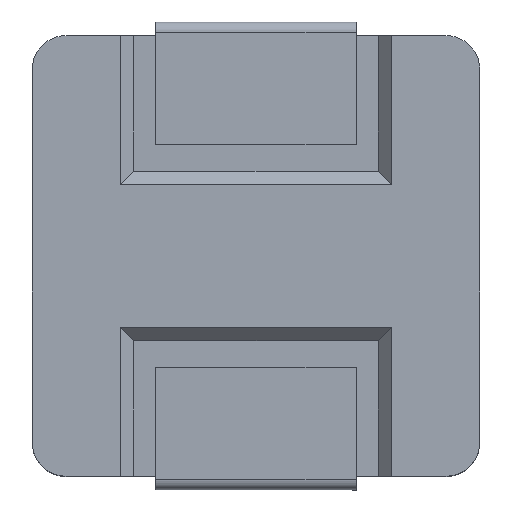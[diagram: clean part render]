
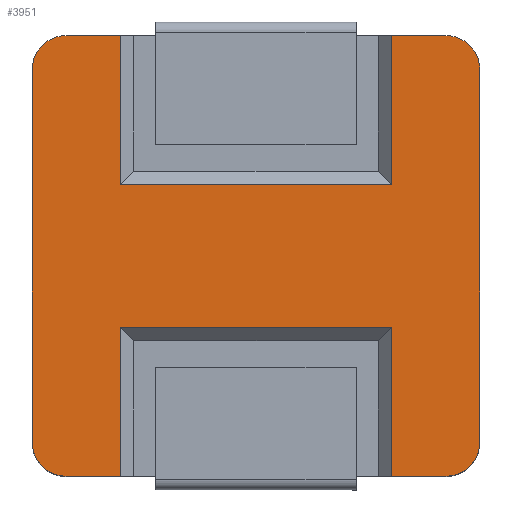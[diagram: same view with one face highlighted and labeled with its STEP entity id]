
A CAD part, top view. The second image highlights one B-rep face of the part: STEP entity #3951.
In plain terms, the highlighted planar face has unit normal (0, 0, 1).
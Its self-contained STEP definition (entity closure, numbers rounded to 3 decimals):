
#48=CIRCLE('',#4233,0.5);
#50=CIRCLE('',#4242,0.5);
#51=CIRCLE('',#4243,0.5);
#52=CIRCLE('',#4244,0.5);
#566=FACE_OUTER_BOUND('',#821,.T.);
#821=EDGE_LOOP('',(#3222,#3223,#3224,#3225,#3226,#3227,#3228,#3229,#3230,
#3231,#3232,#3233,#3234,#3235,#3236,#3237));
#1095=LINE('',#12099,#1427);
#1105=LINE('',#12121,#1437);
#1108=LINE('',#12127,#1440);
#1111=LINE('',#12135,#1443);
#1112=LINE('',#12139,#1444);
#1113=LINE('',#12141,#1445);
#1114=LINE('',#12143,#1446);
#1115=LINE('',#12145,#1447);
#1116=LINE('',#12147,#1448);
#1117=LINE('',#12149,#1449);
#1118=LINE('',#12151,#1450);
#1119=LINE('',#12153,#1451);
#1427=VECTOR('',#4837,1.);
#1437=VECTOR('',#4855,1.);
#1440=VECTOR('',#4860,1.);
#1443=VECTOR('',#4867,1.);
#1444=VECTOR('',#4870,1.);
#1445=VECTOR('',#4871,1.);
#1446=VECTOR('',#4872,1.);
#1447=VECTOR('',#4873,1.);
#1448=VECTOR('',#4874,1.);
#1449=VECTOR('',#4877,1.);
#1450=VECTOR('',#4878,1.);
#1451=VECTOR('',#4879,1.);
#1799=VERTEX_POINT('',#12089);
#1802=VERTEX_POINT('',#12094);
#1803=VERTEX_POINT('',#12098);
#1809=VERTEX_POINT('',#12115);
#1811=VERTEX_POINT('',#12119);
#1813=VERTEX_POINT('',#12125);
#1815=VERTEX_POINT('',#12133);
#1816=VERTEX_POINT('',#12134);
#1817=VERTEX_POINT('',#12136);
#1818=VERTEX_POINT('',#12138);
#1819=VERTEX_POINT('',#12140);
#1820=VERTEX_POINT('',#12142);
#1821=VERTEX_POINT('',#12144);
#1822=VERTEX_POINT('',#12146);
#1823=VERTEX_POINT('',#12150);
#1824=VERTEX_POINT('',#12152);
#2290=EDGE_CURVE('',#1799,#1802,#48,.T.);
#2291=EDGE_CURVE('',#1803,#1799,#1095,.T.);
#2302=EDGE_CURVE('',#1809,#1811,#1105,.T.);
#2305=EDGE_CURVE('',#1811,#1813,#1108,.T.);
#2308=EDGE_CURVE('',#1815,#1816,#1111,.T.);
#2309=EDGE_CURVE('',#1816,#1817,#50,.T.);
#2310=EDGE_CURVE('',#1817,#1818,#1112,.T.);
#2311=EDGE_CURVE('',#1818,#1819,#1113,.T.);
#2312=EDGE_CURVE('',#1819,#1820,#1114,.T.);
#2313=EDGE_CURVE('',#1820,#1821,#1115,.T.);
#2314=EDGE_CURVE('',#1821,#1822,#1116,.T.);
#2315=EDGE_CURVE('',#1822,#1803,#51,.T.);
#2316=EDGE_CURVE('',#1802,#1809,#1117,.T.);
#2317=EDGE_CURVE('',#1813,#1823,#1118,.T.);
#2318=EDGE_CURVE('',#1823,#1824,#1119,.T.);
#2319=EDGE_CURVE('',#1824,#1815,#52,.T.);
#3222=ORIENTED_EDGE('',*,*,#2308,.T.);
#3223=ORIENTED_EDGE('',*,*,#2309,.T.);
#3224=ORIENTED_EDGE('',*,*,#2310,.T.);
#3225=ORIENTED_EDGE('',*,*,#2311,.T.);
#3226=ORIENTED_EDGE('',*,*,#2312,.T.);
#3227=ORIENTED_EDGE('',*,*,#2313,.T.);
#3228=ORIENTED_EDGE('',*,*,#2314,.T.);
#3229=ORIENTED_EDGE('',*,*,#2315,.T.);
#3230=ORIENTED_EDGE('',*,*,#2291,.T.);
#3231=ORIENTED_EDGE('',*,*,#2290,.T.);
#3232=ORIENTED_EDGE('',*,*,#2316,.T.);
#3233=ORIENTED_EDGE('',*,*,#2302,.T.);
#3234=ORIENTED_EDGE('',*,*,#2305,.T.);
#3235=ORIENTED_EDGE('',*,*,#2317,.T.);
#3236=ORIENTED_EDGE('',*,*,#2318,.T.);
#3237=ORIENTED_EDGE('',*,*,#2319,.T.);
#3733=PLANE('',#4241);
#3951=ADVANCED_FACE('',(#566),#3733,.T.);
#4233=AXIS2_PLACEMENT_3D('',#12096,#4833,#4834);
#4241=AXIS2_PLACEMENT_3D('',#12132,#4865,#4866);
#4242=AXIS2_PLACEMENT_3D('',#12137,#4868,#4869);
#4243=AXIS2_PLACEMENT_3D('',#12148,#4875,#4876);
#4244=AXIS2_PLACEMENT_3D('',#12154,#4880,#4881);
#4833=DIRECTION('center_axis',(0.,0.,1.));
#4834=DIRECTION('ref_axis',(1.,0.,0.));
#4837=DIRECTION('',(0.,1.,0.));
#4855=DIRECTION('',(0.,-1.,0.));
#4860=DIRECTION('',(-1.,0.,0.));
#4865=DIRECTION('center_axis',(0.,0.,1.));
#4866=DIRECTION('ref_axis',(1.,0.,0.));
#4867=DIRECTION('',(0.,-1.,0.));
#4868=DIRECTION('center_axis',(0.,0.,1.));
#4869=DIRECTION('ref_axis',(1.,0.,0.));
#4870=DIRECTION('',(1.,0.,0.));
#4871=DIRECTION('',(0.,1.,0.));
#4872=DIRECTION('',(1.,0.,0.));
#4873=DIRECTION('',(0.,-1.,0.));
#4874=DIRECTION('',(1.,0.,0.));
#4875=DIRECTION('center_axis',(0.,0.,1.));
#4876=DIRECTION('ref_axis',(1.,0.,0.));
#4877=DIRECTION('',(-1.,0.,0.));
#4878=DIRECTION('',(0.,1.,0.));
#4879=DIRECTION('',(-1.,0.,0.));
#4880=DIRECTION('center_axis',(0.,0.,1.));
#4881=DIRECTION('ref_axis',(1.,0.,0.));
#12089=CARTESIAN_POINT('',(3.001,2.747,2.019));
#12094=CARTESIAN_POINT('',(2.501,3.247,2.019));
#12096=CARTESIAN_POINT('Origin',(2.501,2.747,2.019));
#12098=CARTESIAN_POINT('',(3.001,-2.753,2.019));
#12099=CARTESIAN_POINT('',(3.001,-2.753,2.019));
#12115=CARTESIAN_POINT('',(1.701,3.247,2.019));
#12119=CARTESIAN_POINT('',(1.701,1.047,2.019));
#12121=CARTESIAN_POINT('',(1.701,1.247,2.019));
#12125=CARTESIAN_POINT('',(-2.299,1.047,2.019));
#12127=CARTESIAN_POINT('',(-2.099,1.047,2.019));
#12132=CARTESIAN_POINT('Origin',(-3.099,2.747,2.019));
#12133=CARTESIAN_POINT('',(-3.599,2.747,2.019));
#12134=CARTESIAN_POINT('',(-3.599,-2.753,2.019));
#12135=CARTESIAN_POINT('',(-3.599,2.747,2.019));
#12136=CARTESIAN_POINT('',(-3.099,-3.253,2.019));
#12137=CARTESIAN_POINT('Origin',(-3.099,-2.753,2.019));
#12138=CARTESIAN_POINT('',(-2.299,-3.253,2.019));
#12139=CARTESIAN_POINT('',(-3.099,-3.253,2.019));
#12140=CARTESIAN_POINT('',(-2.299,-1.053,2.019));
#12141=CARTESIAN_POINT('',(-2.299,-1.253,2.019));
#12142=CARTESIAN_POINT('',(1.701,-1.053,2.019));
#12143=CARTESIAN_POINT('',(1.501,-1.053,2.019));
#12144=CARTESIAN_POINT('',(1.701,-3.253,2.019));
#12145=CARTESIAN_POINT('',(1.701,-3.253,2.019));
#12146=CARTESIAN_POINT('',(2.501,-3.253,2.019));
#12147=CARTESIAN_POINT('',(-3.099,-3.253,2.019));
#12148=CARTESIAN_POINT('Origin',(2.501,-2.753,2.019));
#12149=CARTESIAN_POINT('',(2.501,3.247,2.019));
#12150=CARTESIAN_POINT('',(-2.299,3.247,2.019));
#12151=CARTESIAN_POINT('',(-2.299,3.247,2.019));
#12152=CARTESIAN_POINT('',(-3.099,3.247,2.019));
#12153=CARTESIAN_POINT('',(2.501,3.247,2.019));
#12154=CARTESIAN_POINT('Origin',(-3.099,2.747,2.019));
